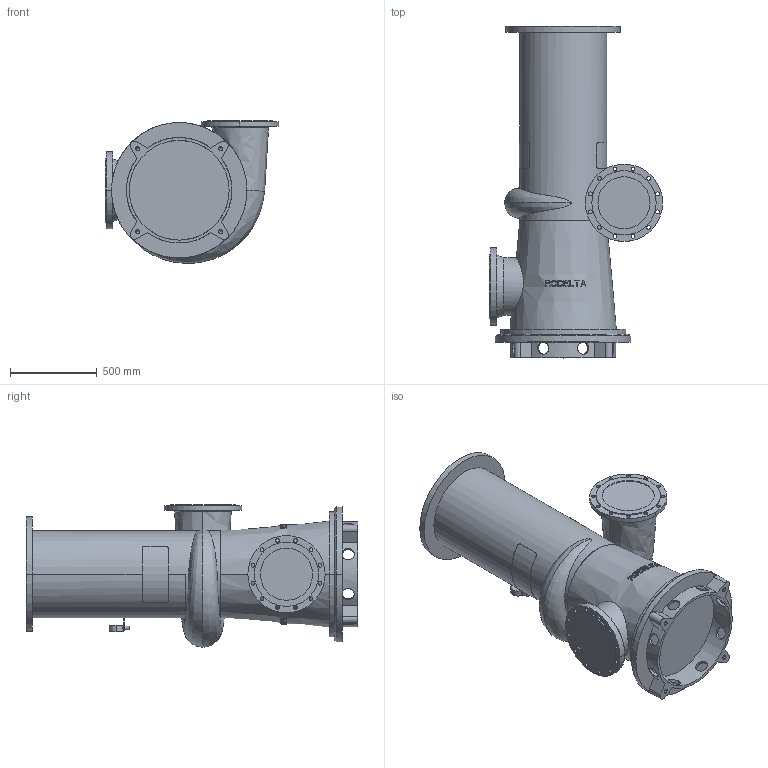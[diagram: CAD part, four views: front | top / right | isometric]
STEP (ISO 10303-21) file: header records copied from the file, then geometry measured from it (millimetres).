
FILE_DESCRIPTION((''),'2;1');
FILE_NAME('12-510_ASM','2024-08-05T',('Lyritlocal'),(''),'PRO/ENGINEER BY PARAMETRIC TECHNOLOGY CORPORATION, 2016360','PRO/ENGINEER BY PARAMETRIC TECHNOLOGY CORPORATION, 2016360','');
FILE_SCHEMA(('CONFIG_CONTROL_DESIGN'));
Length unit declared in the file: millimetre
Products named in the file (3): 12-510; 12-510_VOET; 12-510_ASM
Assembly tree (2 placements, depth 2):
  12-510_ASM
    12-510
    12-510_VOET
Bounding box: 997.5 x 1910 x 820.45 mm (x, y, z)
Volume: 485964673.1 mm3; surface area: 6451901.8 mm2
Topology: 2 solids, 6 shells, 503 faces, 1366 edges, 900 vertices
Faces by surface type: plane 323, cylinder 138, cone 36, bspline 6
Entity records: 18234 total; most frequent: CARTESIAN_POINT 5945, ORIENTED_EDGE 2700, DIRECTION 2279, EDGE_CURVE 1358, VERTEX_POINT 900, AXIS2_PLACEMENT_3D 896, EDGE_LOOP 608, FACE_OUTER_BOUND 503
